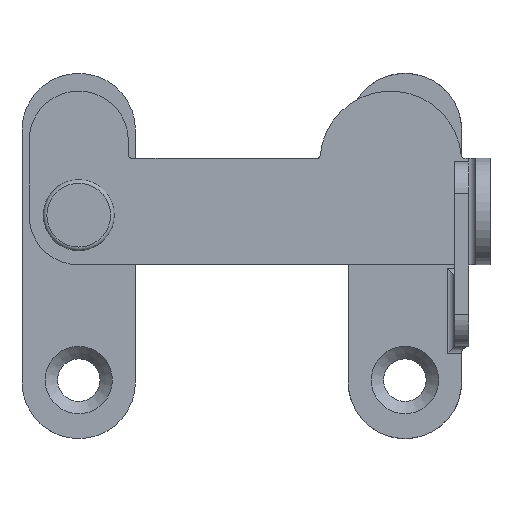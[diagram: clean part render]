
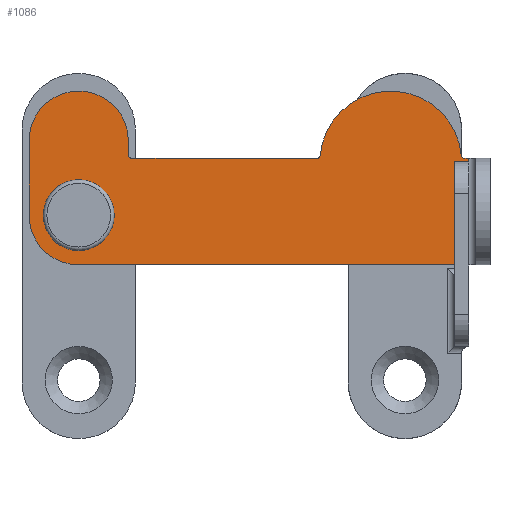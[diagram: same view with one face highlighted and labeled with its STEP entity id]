
A CAD part, top view. The second image highlights one B-rep face of the part: STEP entity #1086.
In plain terms, the highlighted planar face has unit normal (0, 0, 1).
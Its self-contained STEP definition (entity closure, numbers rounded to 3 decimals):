
#70=FACE_BOUND('',#310,.T.);
#105=CIRCLE('',#1177,0.5);
#106=CIRCLE('',#1180,0.5);
#108=CIRCLE('',#1183,10.);
#111=CIRCLE('',#1187,0.5);
#123=CIRCLE('',#1208,1.5);
#124=CIRCLE('',#1212,7.);
#125=CIRCLE('',#1215,7.);
#153=PLANE('',#1216);
#217=FACE_OUTER_BOUND('',#309,.T.);
#309=EDGE_LOOP('',(#979,#980,#981,#982,#983,#984,#985,#986,#987,#988,#989,
#990));
#310=EDGE_LOOP('',(#991));
#370=LINE('',#1806,#447);
#376=LINE('',#1836,#453);
#383=LINE('',#1863,#460);
#390=LINE('',#1884,#467);
#391=LINE('',#1887,#468);
#394=LINE('',#1895,#471);
#447=VECTOR('',#1448,2.);
#453=VECTOR('',#1478,15.);
#460=VECTOR('',#1505,0.548);
#467=VECTOR('',#1530,26.048);
#468=VECTOR('',#1533,55.);
#471=VECTOR('',#1542,10.5);
#538=VERTEX_POINT('',#1796);
#539=VERTEX_POINT('',#1798);
#541=VERTEX_POINT('',#1804);
#542=VERTEX_POINT('',#1808);
#543=VERTEX_POINT('',#1809);
#546=VERTEX_POINT('',#1817);
#549=VERTEX_POINT('',#1825);
#550=VERTEX_POINT('',#1829);
#553=VERTEX_POINT('',#1834);
#568=VERTEX_POINT('',#1881);
#569=VERTEX_POINT('',#1886);
#570=VERTEX_POINT('',#1890);
#571=VERTEX_POINT('',#1894);
#662=EDGE_CURVE('',#538,#539,#105,.T.);
#666=EDGE_CURVE('',#538,#541,#370,.T.);
#667=EDGE_CURVE('',#542,#543,#106,.T.);
#671=EDGE_CURVE('',#546,#543,#108,.T.);
#675=EDGE_CURVE('',#546,#549,#111,.T.);
#680=EDGE_CURVE('',#553,#550,#376,.T.);
#693=EDGE_CURVE('',#553,#549,#383,.T.);
#703=EDGE_CURVE('',#568,#568,#123,.T.);
#704=EDGE_CURVE('',#542,#539,#390,.T.);
#705=EDGE_CURVE('',#569,#550,#391,.T.);
#707=EDGE_CURVE('',#570,#569,#124,.T.);
#709=EDGE_CURVE('',#571,#570,#394,.T.);
#711=EDGE_CURVE('',#541,#571,#125,.T.);
#979=ORIENTED_EDGE('',*,*,#680,.F.);
#980=ORIENTED_EDGE('',*,*,#693,.T.);
#981=ORIENTED_EDGE('',*,*,#675,.F.);
#982=ORIENTED_EDGE('',*,*,#671,.T.);
#983=ORIENTED_EDGE('',*,*,#667,.F.);
#984=ORIENTED_EDGE('',*,*,#704,.T.);
#985=ORIENTED_EDGE('',*,*,#662,.F.);
#986=ORIENTED_EDGE('',*,*,#666,.T.);
#987=ORIENTED_EDGE('',*,*,#711,.T.);
#988=ORIENTED_EDGE('',*,*,#709,.T.);
#989=ORIENTED_EDGE('',*,*,#707,.T.);
#990=ORIENTED_EDGE('',*,*,#705,.T.);
#991=ORIENTED_EDGE('',*,*,#703,.T.);
#1086=ADVANCED_FACE('',(#217,#70),#153,.T.);
#1177=AXIS2_PLACEMENT_3D('',#1799,#1441,#1442);
#1180=AXIS2_PLACEMENT_3D('',#1810,#1451,#1452);
#1183=AXIS2_PLACEMENT_3D('',#1818,#1459,#1460);
#1187=AXIS2_PLACEMENT_3D('',#1826,#1468,#1469);
#1208=AXIS2_PLACEMENT_3D('',#1882,#1526,#1527);
#1212=AXIS2_PLACEMENT_3D('',#1891,#1537,#1538);
#1215=AXIS2_PLACEMENT_3D('',#1898,#1546,#1547);
#1216=AXIS2_PLACEMENT_3D('',#1899,#1548,#1549);
#1441=DIRECTION('center_axis',(0.,0.,1.));
#1442=DIRECTION('ref_axis',(-0.707,-0.707,0.));
#1448=DIRECTION('',(0.,1.,0.));
#1451=DIRECTION('center_axis',(0.,0.,1.));
#1452=DIRECTION('ref_axis',(0.673,-0.74,0.));
#1459=DIRECTION('center_axis',(0.,0.,1.));
#1460=DIRECTION('ref_axis',(0.999,0.05,0.));
#1468=DIRECTION('center_axis',(0.,0.,1.));
#1469=DIRECTION('ref_axis',(-0.673,-0.74,0.));
#1478=DIRECTION('',(0.,-1.,0.));
#1505=DIRECTION('',(-1.,0.,0.));
#1526=DIRECTION('center_axis',(0.,0.,-1.));
#1527=DIRECTION('ref_axis',(-1.,0.,0.));
#1530=DIRECTION('',(-1.,0.,0.));
#1533=DIRECTION('',(1.,0.,0.));
#1537=DIRECTION('center_axis',(0.,0.,1.));
#1538=DIRECTION('ref_axis',(-1.,0.,0.));
#1542=DIRECTION('',(0.,-1.,0.));
#1546=DIRECTION('center_axis',(0.,0.,1.));
#1547=DIRECTION('ref_axis',(1.,0.,0.));
#1548=DIRECTION('center_axis',(0.,0.,1.));
#1549=DIRECTION('ref_axis',(1.,0.,0.));
#1796=CARTESIAN_POINT('',(7.,8.5,1.));
#1798=CARTESIAN_POINT('',(7.5,8.,1.));
#1799=CARTESIAN_POINT('Origin',(7.5,8.5,1.));
#1804=CARTESIAN_POINT('',(7.,10.5,1.));
#1806=CARTESIAN_POINT('',(7.,8.,1.));
#1808=CARTESIAN_POINT('',(33.548,8.,1.));
#1809=CARTESIAN_POINT('',(34.045,8.452,1.));
#1810=CARTESIAN_POINT('Origin',(33.548,8.5,1.));
#1817=CARTESIAN_POINT('',(53.955,8.452,1.));
#1818=CARTESIAN_POINT('Origin',(44.,7.5,1.));
#1825=CARTESIAN_POINT('',(54.452,8.,1.));
#1826=CARTESIAN_POINT('Origin',(54.452,8.5,1.));
#1829=CARTESIAN_POINT('',(55.,-7.,1.));
#1834=CARTESIAN_POINT('',(55.,8.,1.));
#1836=CARTESIAN_POINT('',(55.,5.867,1.));
#1863=CARTESIAN_POINT('',(58.,8.,1.));
#1881=CARTESIAN_POINT('',(1.5,0.,1.));
#1882=CARTESIAN_POINT('Origin',(0.,0.,1.));
#1884=CARTESIAN_POINT('',(58.,8.,1.));
#1886=CARTESIAN_POINT('',(0.,-7.,1.));
#1887=CARTESIAN_POINT('',(0.,-7.,1.));
#1890=CARTESIAN_POINT('',(-7.,0.,1.));
#1891=CARTESIAN_POINT('Origin',(0.,0.,1.));
#1894=CARTESIAN_POINT('',(-7.,10.5,1.));
#1895=CARTESIAN_POINT('',(-7.,10.5,1.));
#1898=CARTESIAN_POINT('Origin',(0.,10.5,1.));
#1899=CARTESIAN_POINT('Origin',(44.,11.235,1.));
